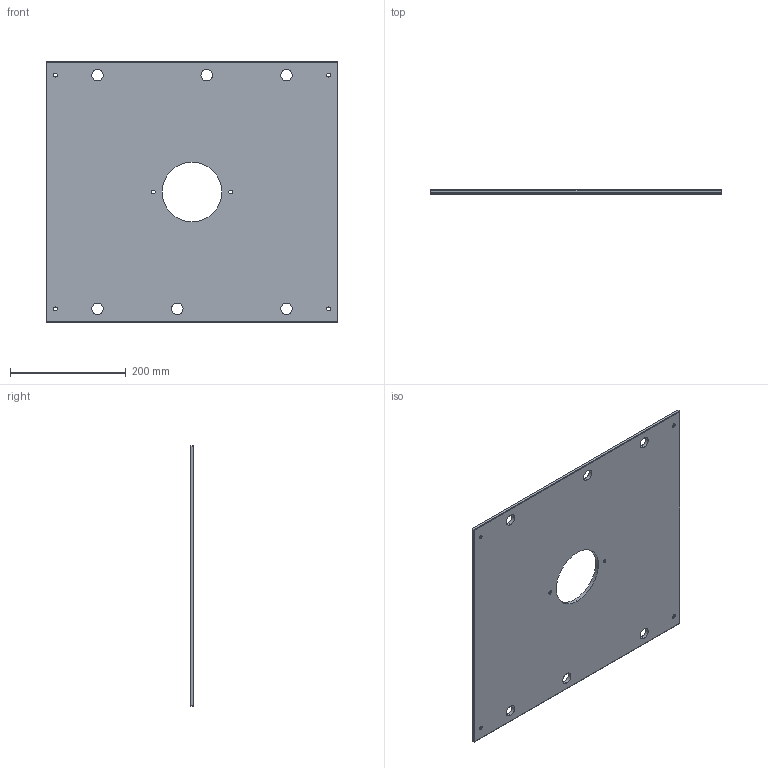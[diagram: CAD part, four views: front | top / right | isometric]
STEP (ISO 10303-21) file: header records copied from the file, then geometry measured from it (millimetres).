
FILE_DESCRIPTION (( 'STEP AP214' ), '1' );
FILE_NAME ('ME-0619-CH-1820-B.STEP', '2020-02-11T17:52:54', ( '' ), ( '' ), 'SwSTEP 2.0', 'SolidWorks 2018', '' );
FILE_SCHEMA (( 'AUTOMOTIVE_DESIGN' ));
Length unit declared in the file: inch
Products named in the file (1): ME-0619-CH-1820-B
Bounding box: 504.82 x 6.35 x 450.85 mm (x, y, z)
Volume: 1374564 mm3; surface area: 448705 mm2
Topology: 1 solids, 1 shells, 64 faces, 150 edges, 88 vertices
Faces by surface type: cylinder 26, plane 26, cone 12
Entity records: 1902 total; most frequent: DIRECTION 344, CARTESIAN_POINT 303, ORIENTED_EDGE 300, EDGE_CURVE 150, AXIS2_PLACEMENT_3D 129, EDGE_LOOP 90, VERTEX_POINT 88, LINE 86
